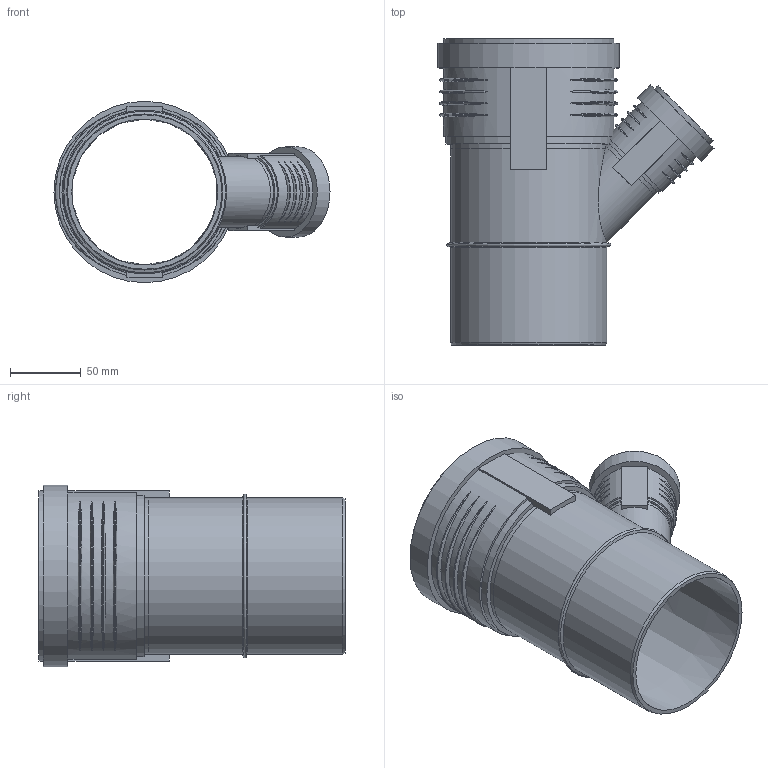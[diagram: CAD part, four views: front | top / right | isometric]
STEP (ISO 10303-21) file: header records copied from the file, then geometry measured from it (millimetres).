
FILE_DESCRIPTION(/* description */ (''),/* implementation_level */ '2;1');
FILE_NAME(/* name */ 'Z:\Geberit\Export\NewStep\390532.stp',/* time_stamp */ '2014-04-02T08:14:20+02:00',/* author */ ('ML'),/* organization */ (''),/* preprocessor_version */ 'ST-DEVELOPER v15.2',/* originating_system */ 'Autodesk Inventor 2014',/* authorisation */ '');
FILE_SCHEMA (('AUTOMOTIVE_DESIGN { 1 0 10303 214 3 1 1 }'));
Length unit declared in the file: millimetre
Products named in the file (4): 861346; 861401; 861404; 390532
Bounding box: 194.89 x 216.1 x 128.1 mm (x, y, z)
Volume: 324708.6 mm3; surface area: 203561.2 mm2
Topology: 3 solids, 3 shells, 124 faces, 304 edges, 212 vertices
Faces by surface type: torus 50, plane 37, cylinder 30, cone 7
Full cylindrical faces by diameter (mm): 46.15 x2, 50.15 x2, 51 x2, 55 x1, 59.7 x1, 63.7 x1, 103.2 x1, 110.2 x3, 113.3 x2, 120.3 x1, 121.1 x1, 128.1 x1
Entity records: 5033 total; most frequent: CARTESIAN_POINT 2125, ORIENTED_EDGE 534, DIRECTION 528, EDGE_CURVE 267, AXIS2_PLACEMENT_3D 228, VERTEX_POINT 203, EDGE_LOOP 186, STYLED_ITEM 124
